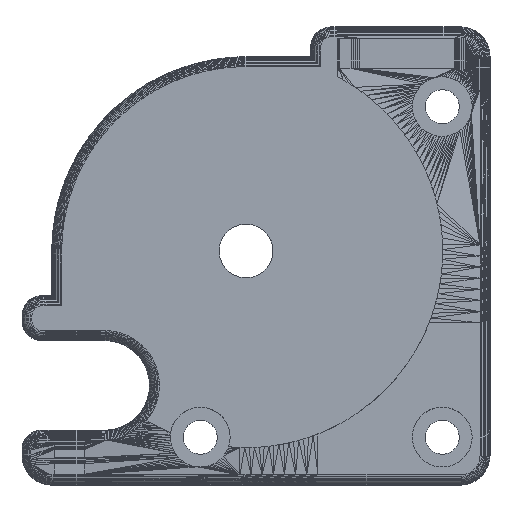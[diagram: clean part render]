
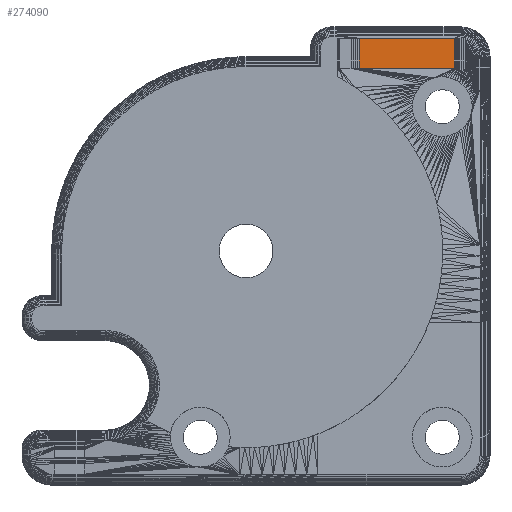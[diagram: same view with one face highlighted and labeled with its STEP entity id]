
A CAD part, top view. The second image highlights one B-rep face of the part: STEP entity #274090.
In plain terms, the highlighted planar face has unit normal (0, 0, 1).
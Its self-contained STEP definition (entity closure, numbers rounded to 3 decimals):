
#135329 = VERTEX_POINT('',#135330);
#135330 = CARTESIAN_POINT('',(135.363,138.35,
    7.151));
#135344 = PLANE('',#135345);
#135345 = AXIS2_PLACEMENT_3D('',#135346,#135347,#135348);
#135346 = CARTESIAN_POINT('',(135.17,138.35,
    7.151));
#135347 = DIRECTION('',(0.,0.,1.));
#135348 = DIRECTION('',(1.,0.,0.));
#135370 = PLANE('',#135371);
#135371 = AXIS2_PLACEMENT_3D('',#135372,#135373,#135374);
#135372 = CARTESIAN_POINT('',(145.5,138.631,7.114));
#135373 = DIRECTION('',(-0.,0.131,0.991));
#135374 = DIRECTION('',(0.,0.991,-0.131));
#135415 = EDGE_CURVE('',#135329,#135416,#135418,.T.);
#135416 = VERTEX_POINT('',#135417);
#135417 = CARTESIAN_POINT('',(144.911,138.35,
    7.151));
#135418 = SURFACE_CURVE('',#135419,(#135423,#135430),.PCURVE_S1.);
#135419 = LINE('',#135420,#135421);
#135420 = CARTESIAN_POINT('',(135.363,138.35,
    7.151));
#135421 = VECTOR('',#135422,1.);
#135422 = DIRECTION('',(1.,0.,0.));
#135423 = PCURVE('',#135370,#135424);
#135424 = DEFINITIONAL_REPRESENTATION('',(#135425),#135429);
#135425 = LINE('',#135426,#135427);
#135426 = CARTESIAN_POINT('',(-0.283,10.137));
#135427 = VECTOR('',#135428,1.);
#135428 = DIRECTION('',(0.,-1.));
#135429 = ( GEOMETRIC_REPRESENTATION_CONTEXT(2) 
PARAMETRIC_REPRESENTATION_CONTEXT() REPRESENTATION_CONTEXT('2D SPACE',''
  ) );
#135430 = PCURVE('',#135431,#135436);
#135431 = PLANE('',#135432);
#135432 = AXIS2_PLACEMENT_3D('',#135433,#135434,#135435);
#135433 = CARTESIAN_POINT('',(144.911,138.35,
    7.151));
#135434 = DIRECTION('',(0.,-0.,1.));
#135435 = DIRECTION('',(1.,0.,0.));
#135436 = DEFINITIONAL_REPRESENTATION('',(#135437),#135441);
#135437 = LINE('',#135438,#135439);
#135438 = CARTESIAN_POINT('',(-9.548,0.));
#135439 = VECTOR('',#135440,1.);
#135440 = DIRECTION('',(1.,0.));
#135441 = ( GEOMETRIC_REPRESENTATION_CONTEXT(2) 
PARAMETRIC_REPRESENTATION_CONTEXT() REPRESENTATION_CONTEXT('2D SPACE',''
  ) );
#135488 = PLANE('',#135489);
#135489 = AXIS2_PLACEMENT_3D('',#135490,#135491,#135492);
#135490 = CARTESIAN_POINT('',(144.911,138.35,
    7.151));
#135491 = DIRECTION('',(0.,-0.,1.));
#135492 = DIRECTION('',(1.,0.,0.));
#218899 = VERTEX_POINT('',#218900);
#218900 = CARTESIAN_POINT('',(144.911,135.35,
    7.151));
#218967 = PLANE('',#218968);
#218968 = AXIS2_PLACEMENT_3D('',#218969,#218970,#218971);
#218969 = CARTESIAN_POINT('',(144.911,135.35,
    7.151));
#218970 = DIRECTION('',(0.,0.131,0.991));
#218971 = DIRECTION('',(0.,0.991,-0.131));
#219175 = VERTEX_POINT('',#219176);
#219176 = CARTESIAN_POINT('',(135.363,135.35,
    7.151));
#219941 = EDGE_CURVE('',#218899,#219175,#219942,.T.);
#219942 = SURFACE_CURVE('',#219943,(#219947,#219954),.PCURVE_S1.);
#219943 = LINE('',#219944,#219945);
#219944 = CARTESIAN_POINT('',(144.911,135.35,
    7.151));
#219945 = VECTOR('',#219946,1.);
#219946 = DIRECTION('',(-1.,0.,0.));
#219947 = PCURVE('',#218967,#219948);
#219948 = DEFINITIONAL_REPRESENTATION('',(#219949),#219953);
#219949 = LINE('',#219950,#219951);
#219950 = CARTESIAN_POINT('',(0.,0.));
#219951 = VECTOR('',#219952,1.);
#219952 = DIRECTION('',(0.,1.));
#219953 = ( GEOMETRIC_REPRESENTATION_CONTEXT(2) 
PARAMETRIC_REPRESENTATION_CONTEXT() REPRESENTATION_CONTEXT('2D SPACE',''
  ) );
#219954 = PCURVE('',#135431,#219955);
#219955 = DEFINITIONAL_REPRESENTATION('',(#219956),#219960);
#219956 = LINE('',#219957,#219958);
#219957 = CARTESIAN_POINT('',(0.,-3.));
#219958 = VECTOR('',#219959,1.);
#219959 = DIRECTION('',(-1.,0.));
#219960 = ( GEOMETRIC_REPRESENTATION_CONTEXT(2) 
PARAMETRIC_REPRESENTATION_CONTEXT() REPRESENTATION_CONTEXT('2D SPACE',''
  ) );
#274067 = EDGE_CURVE('',#218899,#135416,#274068,.T.);
#274068 = SURFACE_CURVE('',#274069,(#274073,#274080),.PCURVE_S1.);
#274069 = LINE('',#274070,#274071);
#274070 = CARTESIAN_POINT('',(144.911,135.35,
    7.151));
#274071 = VECTOR('',#274072,1.);
#274072 = DIRECTION('',(0.,1.,0.));
#274073 = PCURVE('',#135488,#274074);
#274074 = DEFINITIONAL_REPRESENTATION('',(#274075),#274079);
#274075 = LINE('',#274076,#274077);
#274076 = CARTESIAN_POINT('',(0.,-3.));
#274077 = VECTOR('',#274078,1.);
#274078 = DIRECTION('',(0.,1.));
#274079 = ( GEOMETRIC_REPRESENTATION_CONTEXT(2) 
PARAMETRIC_REPRESENTATION_CONTEXT() REPRESENTATION_CONTEXT('2D SPACE',''
  ) );
#274080 = PCURVE('',#135431,#274081);
#274081 = DEFINITIONAL_REPRESENTATION('',(#274082),#274086);
#274082 = LINE('',#274083,#274084);
#274083 = CARTESIAN_POINT('',(0.,-3.));
#274084 = VECTOR('',#274085,1.);
#274085 = DIRECTION('',(0.,1.));
#274086 = ( GEOMETRIC_REPRESENTATION_CONTEXT(2) 
PARAMETRIC_REPRESENTATION_CONTEXT() REPRESENTATION_CONTEXT('2D SPACE',''
  ) );
#274090 = ADVANCED_FACE('',(#274091),#135431,.T.);
#274091 = FACE_BOUND('',#274092,.T.);
#274092 = EDGE_LOOP('',(#274093,#274094,#274115,#274116));
#274093 = ORIENTED_EDGE('',*,*,#135415,.F.);
#274094 = ORIENTED_EDGE('',*,*,#274095,.T.);
#274095 = EDGE_CURVE('',#135329,#219175,#274096,.T.);
#274096 = SURFACE_CURVE('',#274097,(#274101,#274108),.PCURVE_S1.);
#274097 = LINE('',#274098,#274099);
#274098 = CARTESIAN_POINT('',(135.363,138.35,
    7.151));
#274099 = VECTOR('',#274100,1.);
#274100 = DIRECTION('',(0.,-1.,0.));
#274101 = PCURVE('',#135431,#274102);
#274102 = DEFINITIONAL_REPRESENTATION('',(#274103),#274107);
#274103 = LINE('',#274104,#274105);
#274104 = CARTESIAN_POINT('',(-9.548,0.));
#274105 = VECTOR('',#274106,1.);
#274106 = DIRECTION('',(0.,-1.));
#274107 = ( GEOMETRIC_REPRESENTATION_CONTEXT(2) 
PARAMETRIC_REPRESENTATION_CONTEXT() REPRESENTATION_CONTEXT('2D SPACE',''
  ) );
#274108 = PCURVE('',#135344,#274109);
#274109 = DEFINITIONAL_REPRESENTATION('',(#274110),#274114);
#274110 = LINE('',#274111,#274112);
#274111 = CARTESIAN_POINT('',(0.193,0.));
#274112 = VECTOR('',#274113,1.);
#274113 = DIRECTION('',(0.,-1.));
#274114 = ( GEOMETRIC_REPRESENTATION_CONTEXT(2) 
PARAMETRIC_REPRESENTATION_CONTEXT() REPRESENTATION_CONTEXT('2D SPACE',''
  ) );
#274115 = ORIENTED_EDGE('',*,*,#219941,.F.);
#274116 = ORIENTED_EDGE('',*,*,#274067,.T.);
